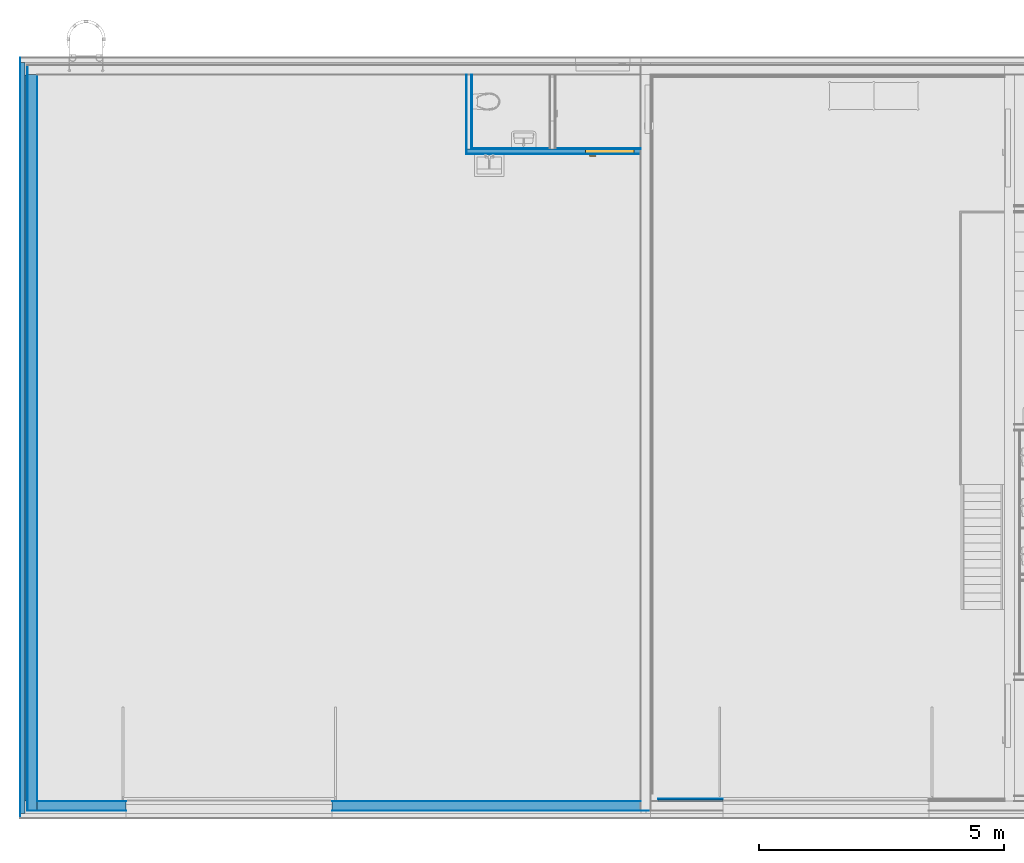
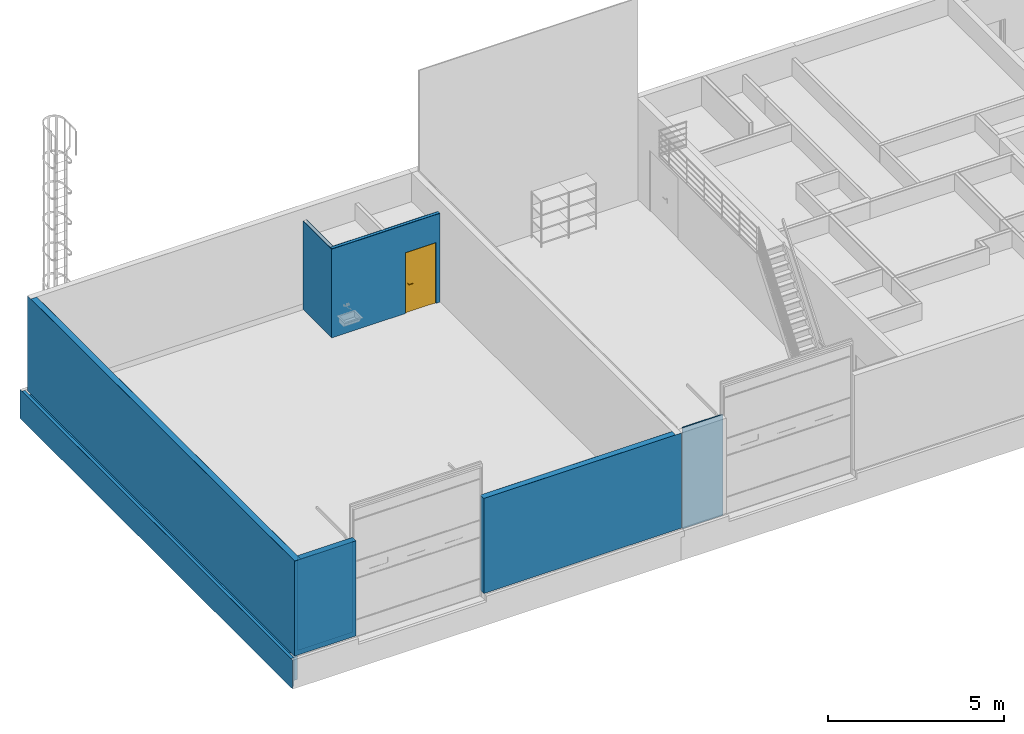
# One storey, part 2 of 67: 20 building element parts, 1 door, 1 opening, 6 elements without a shape of their own.
"""IFC4 building model written with IfcOpenShell, lengths in millimetres."""

from ifc_helpers import new_model, entity, si_unit, converted_unit, direction, frame, origin, place, context, subcontext, project, spatial, indexed_curve, outline, extrude, polygons, source, transform, mapped, material, constituent, constituent_set, type_object, type_shapes, element, fill, aggregate, save


model = new_model("IFC4")

# Units and contexts
model_context = context("Model", 3, precision=0.01, world=origin(), true_north=direction((0.0, 1.0)))
body_context = subcontext(model_context, "Body", "Model", "MODEL_VIEW")
ifc_project = project(units=[si_unit("LENGTHUNIT", "METRE", prefix="MILLI"), si_unit("AREAUNIT", "SQUARE_METRE"), si_unit("VOLUMEUNIT", "CUBIC_METRE"), converted_unit("PLANEANGLEUNIT", "DEGREE", entity("IfcPlaneAngleMeasure", 0.017453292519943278), si_unit("PLANEANGLEUNIT", "RADIAN"), dimensions=[0, 0, 0, 0, 0, 0, 0])], contexts=[model_context])

# Site, building, storey
site_placement = place(None, origin())
site = spatial("IfcSite", under=ifc_project, at=site_placement, Name="Tomtens navn", CompositionType="ELEMENT")
building_placement = place(site_placement, origin())
building = spatial("IfcBuilding", under=site, at=building_placement, Name="Byggets navn", CompositionType="ELEMENT")
storey_placement = place(building_placement, origin())
storey = spatial("IfcBuildingStorey", under=building, at=storey_placement, Name="Level 01", CompositionType="ELEMENT", Elevation=2.1993652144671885e-25)

# Door
ifc_material_1 = material(Name="Rustfritt Stål", Category="Metal")
ifc_constituent_1 = constituent(ifc_material_1, Name="Rustfritt Stål", Category="Metal", fraction=0.0018055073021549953)
ifc_material_2 = material(Name="Hvit", Category="Paint")
ifc_constituent_2 = constituent(ifc_material_2, Name="Hvit", Category="Paint", fraction=0.998194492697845)
ifc_constituent_set_1 = constituent_set(constituents=[ifc_constituent_1, ifc_constituent_2])
ifc_constituent_3 = constituent(ifc_material_1, Name="Rustfritt Stål", Category="Metal", fraction=0.0009035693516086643)
ifc_constituent_4 = constituent(ifc_material_2, Name="Panel", Category="Paint", fraction=0.4995482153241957)
ifc_constituent_5 = constituent(ifc_material_2, Name="Frame/Mullion", Category="Paint", fraction=0.4995482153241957)
ifc_constituent_set_2 = constituent_set(constituents=[ifc_constituent_3, ifc_constituent_4, ifc_constituent_5])
door_type = type_object("IfcDoorType", Name="Enfløyet:ID10 Stålsdør 10x21M", OperationType="SINGLE_SWING_LEFT", PredefinedType="DOOR", material=ifc_constituent_set_2)
shared_shape = source(origin(), body_context, "Body", "SweptSolid", [
    extrude(outline(indexed_curve([(-33.33333333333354, -50.833333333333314), (24.166666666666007, -50.833333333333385), (24.166666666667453, 86.66666666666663), (9.16666666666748, 86.6666666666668), (9.166666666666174, -35.83333333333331), (-33.33333333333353, -35.83333333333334), (-33.33333333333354, -50.833333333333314)], self_intersect=False)), frame((868.666666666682, 119.9410394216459, 980.5000000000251), z_axis=(0.0, 0.0, 1.0), x_axis=(0.0, 1.0, 0.0)), (0.0, 0.0, 1.0), 14.999999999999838),
    extrude(outline(indexed_curve([(-2.8000000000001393, -25.000000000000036), (2.799999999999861, -25.000000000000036), (2.8000000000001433, 25.000000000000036), (-2.799999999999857, 24.999999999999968), (-2.8000000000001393, -25.000000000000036)], self_intersect=False)), frame((912.0, 83.80000000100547, 850.9862950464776), z_axis=(0.0, 0.0, 1.0), x_axis=(0.0, -1.0, 0.0)), (0.0, 0.0, 1.0), 159.01370495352),
    extrude(outline(indexed_curve([(-50.83333333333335, -33.33333333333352), (-35.83333333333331, -33.33333333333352), (-35.83333333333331, 9.16666666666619), (86.6666666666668, 9.1666666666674), (86.66666666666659, 24.1666666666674), (-50.83333333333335, 24.16666666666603), (-50.83333333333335, -33.33333333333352)], self_intersect=False)), frame((868.6666666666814, 2.0589605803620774, 980.5000000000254), z_axis=(0.0, 0.0, 1.0), x_axis=(-1.0, 0.0, 0.0)), (0.0, 0.0, 1.0), 14.999999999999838),
    extrude(outline(indexed_curve([(-24.999999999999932, -2.799999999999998), (25.00000000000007, -2.799999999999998), (25.0, 2.800000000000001), (-24.999999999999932, 2.800000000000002), (-24.999999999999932, -2.799999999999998)], self_intersect=False)), frame((912.0, 38.200000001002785, 850.9862950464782)), (0.0, 0.0, 1.0), 159.01370495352),
    extrude(outline(indexed_curve([(-456.9999999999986, -20.0), (456.9999999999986, -20.0), (456.9999999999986, 20.0), (-456.9999999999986, 20.0), (-456.9999999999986, -20.0)], self_intersect=False)), frame((505.0, 61.00000000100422, 10.0)), (0.0, 0.0, 1.0), 2042.0),
    extrude(outline(indexed_curve([(456.9999999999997, -1035.4999999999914), (494.99999999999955, -1035.4999999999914), (494.99999999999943, 1054.4999999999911), (-494.99999999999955, 1054.4999999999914), (-494.99999999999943, -1035.4999999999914), (-456.99999999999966, -1035.4999999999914), (-456.99999999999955, 1016.4999999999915), (456.99999999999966, 1016.4999999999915), (456.9999999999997, -1035.4999999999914)], self_intersect=False)), frame((505.0, 81.00000000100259, 1035.4999999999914), z_axis=(0.0, -1.0, 0.0), x_axis=(1.0, 0.0, 0.0)), (0.0, 0.0, 1.0), 99.99999999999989),
])
type_shapes(door_type, [shared_shape])
wall_5_placement = place(storey_placement, frame((51012.853528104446, 21300.966456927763, 0.0), z_axis=(0.0, 0.0, 1.0), x_axis=(-1.0, 0.0, 0.0)))
opening_placement = place(wall_5_placement, frame((129.49999999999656, -60.49999999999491, 0.0)))
door_placement = place(opening_placement, frame((0.0, 20.0, 0.0)))
door = element("IfcDoor", 1, at=door_placement, inside=storey, type_object=door_type, material=ifc_constituent_set_1, Name="Enfløyet:ID10 Stålsdør 10x21M", OverallHeight=2110.000000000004, OverallWidth=1009.9999999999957, PredefinedType="DOOR", context=body_context, shape_type="MappedRepresentation", body=[
    mapped(shared_shape, transform((0.0, 0.0, 0.0), scale=1.0)),
])

# Wall, building element parts
wall_type_1 = type_object("IfcWallType", Name="Basic Wall:IV17 - Utforing lekt+fasadeplater", PredefinedType="STANDARD")
wall_1_placement = place(storey_placement, frame((51362.853528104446, 8084.466456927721, 0.0)))
wall_1 = element("IfcWall", 2, at=wall_1_placement, inside=storey, type_object=wall_type_1, Name="Basic Wall:IV17 - Utforing lekt+fasadeplater", PredefinedType="NOTDEFINED")
ifc_material_3 = material(Name="NO_platekledning", Category="Tre")
building_element_part_1_placement = place(wall_1_placement, origin())
building_element_part_1 = element("IfcBuildingElementPart", 3, at=building_element_part_1_placement, material=ifc_material_3, Name="NO_platekledning", context=body_context, shape_type="SweptSolid", body=[
    extrude(outline(indexed_curve([(-4.999999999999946, -659.9999999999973), (4.999999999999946, -659.9999999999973), (4.999999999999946, 659.9999999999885), (-4.999999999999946, 659.9999999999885), (-4.999999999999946, -659.9999999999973)], self_intersect=False)), frame((660.0, 18.0, 0.0), z_axis=(0.0, 0.0, 1.0), x_axis=(0.0, -1.0, 0.0)), (0.0, 0.0, 1.0), 3499.999999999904),
])
ifc_material_4 = material(Name="Stender", Category="Unassigned")
building_element_part_2_placement = place(wall_1_placement, origin())
building_element_part_2 = element("IfcBuildingElementPart", 4, at=building_element_part_2_placement, material=ifc_material_4, Name="Stender", context=body_context, shape_type="SweptSolid", body=[
    extrude(outline(indexed_curve([(-18.000000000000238, -659.9999999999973), (18.000000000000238, -659.9999999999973), (18.000000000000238, 659.9999999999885), (-18.000000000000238, 659.9999999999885), (-18.000000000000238, -659.9999999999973)], self_intersect=False)), frame((660.0, -5.0, 0.0), z_axis=(0.0, 0.0, 1.0), x_axis=(0.0, -1.0, 0.0)), (0.0, 0.0, 1.0), 3499.999999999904),
])
aggregate(wall_1, [building_element_part_1, building_element_part_2])

wall_type_2 = type_object("IfcWallType", Name="Basic Wall:YV02 Sandwichvegg 200", PredefinedType="STANDARD")
wall_2_placement = place(storey_placement, frame((51012.85352810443, 7961.46645692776, 200.0), z_axis=(0.0, 0.0, 1.0), x_axis=(-1.0, 0.0, 0.0)))
wall_2 = element("IfcWall", 5, at=wall_2_placement, inside=storey, type_object=wall_type_2, Name="Basic Wall:YV02 Sandwichvegg 200", PredefinedType="NOTDEFINED")
ifc_material_5 = material(Name="Metall - Malt overflate - Mørk Grå, Matt", Category="Unassigned")
building_element_part_3_placement = place(wall_2_placement, origin())
building_element_part_3 = element("IfcBuildingElementPart", 6, at=building_element_part_3_placement, material=ifc_material_5, Name="Metall - Malt overflate - Mørk Grå, Matt", context=body_context, shape_type="SweptSolid", body=[
    extrude(outline(indexed_curve([(-0.9999999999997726, -1003.999999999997), (0.9999999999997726, -1003.999999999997), (0.9999999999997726, 1003.999999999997), (-0.9999999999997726, 1003.999999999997), (-0.9999999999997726, -1003.999999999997)], self_intersect=False)), frame((11494.0, 99.0, 0.0), z_axis=(0.0, 0.0, 1.0), x_axis=(0.0, 1.0, 0.0)), (0.0, 0.0, 1.0), 3299.999999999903),
])
building_element_part_4_placement = place(wall_2_placement, origin())
building_element_part_4 = element("IfcBuildingElementPart", 7, at=building_element_part_4_placement, material=ifc_material_5, Name="Metall - Malt overflate - Mørk Grå, Matt", context=body_context, shape_type="SweptSolid", body=[
    extrude(outline(indexed_curve([(-0.9999999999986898, -3244.0000000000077), (0.9999999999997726, -3244.0000000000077), (0.9999999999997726, 3244.0000000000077), (-0.9999999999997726, 3244.0000000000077), (-0.9999999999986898, -3244.0000000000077)], self_intersect=False)), frame((3046.0, 99.0, 0.0), z_axis=(0.0, 0.0, 1.0), x_axis=(0.0, 1.0, 0.0)), (0.0, 0.0, 1.0), 3299.999999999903),
])
building_element_part_5_placement = place(wall_2_placement, origin())
building_element_part_5 = element("IfcBuildingElementPart", 8, at=building_element_part_5_placement, material=ifc_material_1, Name="Rustfritt Stål", context=body_context, shape_type="SweptSolid", body=[
    extrude(outline(indexed_curve([(-0.9999999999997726, -905.0000000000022), (0.9999999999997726, -905.0000000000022), (0.9999999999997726, 904.9999999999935), (-0.9999999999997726, 904.9999999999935), (-0.9999999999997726, -905.0000000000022)], self_intersect=False)), frame((11395.0, -99.0, 0.0), z_axis=(0.0, 0.0, 1.0), x_axis=(0.0, 1.0, 0.0)), (0.0, 0.0, 1.0), 3299.999999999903),
])
building_element_part_6_placement = place(wall_2_placement, origin())
building_element_part_6 = element("IfcBuildingElementPart", 9, at=building_element_part_6_placement, material=ifc_material_1, Name="Rustfritt Stål", context=body_context, shape_type="SweptSolid", body=[
    extrude(outline(indexed_curve([(-0.9999999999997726, -3145.000000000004), (1.0000000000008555, -3145.000000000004), (0.9999999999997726, 3145.0000000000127), (-0.9999999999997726, 3145.0000000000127), (-0.9999999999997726, -3145.000000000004)], self_intersect=False)), frame((3145.0, -99.0, 0.0), z_axis=(0.0, 0.0, 1.0), x_axis=(0.0, 1.0, 0.0)), (0.0, 0.0, 1.0), 3299.999999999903),
])
ifc_material_6 = material(Name="NO_Isolasjon - Fast", Category="Isolasjon")
building_element_part_7_placement = place(wall_2_placement, origin())
building_element_part_7 = element("IfcBuildingElementPart", 10, at=building_element_part_7_placement, material=ifc_material_6, Name="NO_Isolasjon - Fast", context=body_context, shape_type="SweptSolid", body=[
    extrude(outline(indexed_curve([(-98.00000000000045, -906.0000000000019), (98.00000000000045, -906.0000000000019), (98.00000000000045, 905.9999999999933), (-98.00000000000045, 905.9999999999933), (-98.00000000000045, -906.0000000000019)], self_intersect=False)), frame((11396.0, 0.0, 0.0), z_axis=(0.0, 0.0, 1.0), x_axis=(0.0, 1.0, 0.0)), (0.0, 0.0, 1.0), 3299.999999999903),
])
building_element_part_8_placement = place(wall_2_placement, origin())
building_element_part_8 = element("IfcBuildingElementPart", 11, at=building_element_part_8_placement, material=ifc_material_6, Name="NO_Isolasjon - Fast", context=body_context, shape_type="SweptSolid", body=[
    extrude(outline(indexed_curve([(-97.99999999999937, -3146.0000000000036), (98.00000000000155, -3146.0000000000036), (98.00000000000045, 3146.0000000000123), (-98.00000000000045, 3146.0000000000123), (-97.99999999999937, -3146.0000000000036)], self_intersect=False)), frame((3144.0, 0.0, 0.0), z_axis=(0.0, 0.0, 1.0), x_axis=(0.0, 1.0, 0.0)), (0.0, 0.0, 1.0), 3299.999999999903),
])
aggregate(wall_2, [building_element_part_3, building_element_part_4, building_element_part_5, building_element_part_6, building_element_part_7, building_element_part_8])

wall_3_placement = place(storey_placement, frame((38612.853528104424, 7861.466456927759, 200.0), z_axis=(0.0, 0.0, 1.0), x_axis=(0.0, 1.0, 0.0)))
wall_3 = element("IfcWall", 12, at=wall_3_placement, inside=storey, type_object=wall_type_2, Name="Basic Wall:YV02 Sandwichvegg 200", PredefinedType="NOTDEFINED")
building_element_part_9_placement = place(wall_3_placement, origin())
building_element_part_9 = element("IfcBuildingElementPart", 13, at=building_element_part_9_placement, material=ifc_material_5, Name="Metall - Malt overflate - Mørk Grå, Matt", context=body_context, shape_type="SweptSolid", body=[
    extrude(outline(indexed_curve([(-7599.000000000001, -1.0000000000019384), (7599.0, -1.0000000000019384), (7599.000000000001, 0.9999999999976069), (-7599.000000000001, 1.0000000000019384), (-7599.000000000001, -1.0000000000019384)], self_intersect=False)), frame((7599.0, 99.0, 0.0), z_axis=(0.0, 0.0, 1.0), x_axis=(-1.0, 0.0, 0.0)), (0.0, 0.0, 1.0), 3299.9999999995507),
])
building_element_part_10_placement = place(wall_3_placement, origin())
building_element_part_10 = element("IfcBuildingElementPart", 14, at=building_element_part_10_placement, material=ifc_material_1, Name="Rustfritt Stål", context=body_context, shape_type="SweptSolid", body=[
    extrude(outline(indexed_curve([(-7401.0, -0.9999999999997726), (7401.0, -0.9999999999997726), (7401.0, 0.9999999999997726), (-7401.0, 0.9999999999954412), (-7401.0, -0.9999999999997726)], self_intersect=False)), frame((7599.0, -99.0, 0.0), z_axis=(0.0, 0.0, 1.0), x_axis=(-1.0, 0.0, 0.0)), (0.0, 0.0, 1.0), 3299.9999999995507),
])
building_element_part_11_placement = place(wall_3_placement, origin())
building_element_part_11 = element("IfcBuildingElementPart", 15, at=building_element_part_11_placement, material=ifc_material_6, Name="NO_Isolasjon - Fast", context=body_context, shape_type="SweptSolid", body=[
    extrude(outline(indexed_curve([(-7500.000000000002, -97.99999999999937), (7500.000000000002, -97.99999999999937), (7500.000000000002, 97.99999999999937), (-7500.000000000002, 97.99999999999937), (-7500.000000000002, -97.99999999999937)], self_intersect=False)), frame((7502.0, 0.0, 0.0), z_axis=(0.0, 0.0, 1.0), x_axis=(-1.0, 0.0, 0.0)), (0.0, 0.0, 1.0), 3299.9999999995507),
])
aggregate(wall_3, [building_element_part_9, building_element_part_10, building_element_part_11])

wall_type_3 = type_object("IfcWallType", Name="Basic Wall:RIB YV-Betong_250mm+100iso", PredefinedType="STANDARD")
wall_4_placement = place(storey_placement, frame((38536.85352810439, 22861.466456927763, -800.0), z_axis=(0.0, 0.0, 1.0), x_axis=(0.0, -1.0, 0.0)))
wall_4 = element("IfcWall", 16, at=wall_4_placement, inside=storey, type_object=wall_type_3, Name="Basic Wall:RIB YV-Betong_250mm+100iso", PredefinedType="NOTDEFINED")
ifc_material_7 = material(Name="NO_Maling - mørk grå", Category="Overflatebehandling")
building_element_part_12_placement = place(wall_4_placement, origin())
building_element_part_12 = element("IfcBuildingElementPart", 17, at=building_element_part_12_placement, material=ifc_material_7, Name="NO_Maling - mørk grå", context=body_context, shape_type="SweptSolid", body=[
    extrude(outline(indexed_curve([(-7749.999999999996, -1.0000000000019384), (7750.0, -1.0000000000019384), (7749.999999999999, 0.9999999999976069), (-7749.999999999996, 0.9999999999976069), (-7749.999999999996, -1.0000000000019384)], self_intersect=False)), frame((7400.0, -175.0, 0.0)), (0.0, 0.0, 1.0), 1000.0000000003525),
])
building_element_part_13_placement = place(wall_4_placement, origin())
building_element_part_13 = element("IfcBuildingElementPart", 18, at=building_element_part_13_placement, material=ifc_material_6, Name="NO_Isolasjon - Fast", context=body_context, shape_type="SweptSolid", body=[
    extrude(outline(indexed_curve([(-7650.0, -49.99999999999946), (7650.0, -49.99999999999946), (7649.999999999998, 49.99999999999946), (-7650.0, 49.99999999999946), (-7650.0, -49.99999999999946)], self_intersect=False)), frame((7400.0, -124.0, 0.0)), (0.0, 0.0, 1.0), 1000.0000000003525),
])
ifc_material_8 = material(Name="231_Vegg 250mm_Betong", Category="NOR ^ Betong")
building_element_part_14_placement = place(wall_4_placement, origin())
building_element_part_14 = element("IfcBuildingElementPart", 19, at=building_element_part_14_placement, material=ifc_material_8, Name="231_Vegg 250mm_Betong", context=body_context, shape_type="SweptSolid", body=[
    extrude(outline(indexed_curve([(-7399.999999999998, -124.99999999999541), (7399.999999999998, -124.99999999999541), (7399.999999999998, 125.00000000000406), (-7399.999999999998, 125.00000000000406), (-7399.999999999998, -124.99999999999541)], self_intersect=False)), frame((7400.0, 51.0, 0.0)), (0.0, 0.0, 1.0), 1000.0000000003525),
])
aggregate(wall_4, [building_element_part_12, building_element_part_13, building_element_part_14])

# Wall, opening
wall_type_4 = type_object("IfcWallType", Name="Basic Wall:IV02 Gips Stender Gips-120mm", PredefinedType="STANDARD")
wall_5 = element("IfcWall", 20, at=wall_5_placement, inside=storey, type_object=wall_type_4, Name="Basic Wall:IV02 Gips Stender Gips-120mm", PredefinedType="NOTDEFINED")
opening = element("IfcOpeningElement", 21, at=opening_placement, cuts=wall_5, Name="Enfløyet:ID10 Stålsdør 10x21M:1", PredefinedType="OPENING", context=body_context, shape_type="SweptSolid", body=[
    extrude(outline(indexed_curve([(0.0, 3.5193181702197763e-12), (2110.000000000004, 3.5193181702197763e-12), (2110.000000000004, 1009.9999999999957), (0.0, 1009.9999999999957), (0.0, 3.5193181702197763e-12)], self_intersect=False)), frame((0.0, 0.0, 0.0), z_axis=(0.0, 1.0, 0.0), x_axis=(0.0, 0.0, 1.0)), (0.0, 0.0, 1.0), 120.99999999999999),
])

fill(opening, door)

# Building element part
building_element_part_15_placement = place(wall_5_placement, frame((3547.5000000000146, 47.49999999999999, 0.0)))
building_element_part_15 = element("IfcBuildingElementPart", 22, at=building_element_part_15_placement, material=ifc_material_4, Name="Stender", context=body_context, shape_type="Tessellation", body=[
    polygons([(-2408.000000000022, -94.99999999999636, 7.331217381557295e-26), (-7.275957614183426e-12, -94.99999999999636, 7.331217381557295e-26), (-7.275957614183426e-12, -94.99999999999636, 3079.9999999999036), (-3549.5000000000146, -94.99999999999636, 3079.9999999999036), (-3549.5000000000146, -94.99999999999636, 7.331217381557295e-26), (-3418.000000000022, -94.99999999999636, 7.331217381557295e-26), (-3418.000000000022, -94.99999999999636, 2110.000000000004), (-2408.000000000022, -94.99999999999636, 2110.000000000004), (-3549.5000000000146, 0.0, 7.331217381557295e-26), (-3418.000000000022, 0.0, 7.331217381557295e-26), (-7.275957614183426e-12, 0.0, 3079.9999999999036), (-3549.5000000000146, 0.0, 3079.9999999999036), (-3418.000000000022, 0.0, 2110.000000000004), (-2408.000000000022, 0.0, 2110.000000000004), (-2408.000000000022, 0.0, 7.331217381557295e-26), (-7.275957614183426e-12, 0.0, 7.331217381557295e-26)], [[[1, 2, 3, 4, 5, 6, 7, 8]], [[5, 9, 10, 6]], [[3, 11, 12, 4]], [[6, 10, 13, 7]], [[7, 13, 14, 8]], [[15, 1, 8, 14]], [[16, 2, 1, 15]], [[16, 15, 14, 13, 10, 9, 12, 11]], [[9, 5, 4, 12]], [[2, 16, 11, 3]]], closed=True),
])

ifc_material_9 = material(Name="Gipsplater", Category="NOR ^ Gips")
building_element_part_16_placement = place(wall_5_placement, origin())
building_element_part_16 = element("IfcBuildingElementPart", 23, at=building_element_part_16_placement, material=ifc_material_9, Name="Gipsplater", context=body_context, shape_type="SweptSolid", body=[
    extrude(outline(indexed_curve([(-6.500000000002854, -802.4999999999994), (6.499999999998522, -802.4999999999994), (6.499999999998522, 802.5000000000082), (-6.500000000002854, 802.5000000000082), (-6.500000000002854, -802.4999999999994)], self_intersect=False)), frame((2650.0, -54.0, 0.0), z_axis=(0.0, 0.0, 1.0), x_axis=(0.0, 1.0, 0.0)), (0.0, 0.0, 1.0), 3079.9999999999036),
])

building_element_part_17_placement = place(wall_5_placement, frame((1752.4999999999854, -47.49999999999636, 0.0)))
building_element_part_17 = element("IfcBuildingElementPart", 24, at=building_element_part_17_placement, material=ifc_material_9, Name="Gipsplater", context=body_context, shape_type="Tessellation", body=[
    polygons([(-1622.9999999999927, -13.0, 2.1993652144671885e-25), (-1752.4999999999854, -13.0, 2.1993652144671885e-25), (-1752.4999999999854, 0.0, 7.331217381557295e-26), (-1622.9999999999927, 0.0, 7.331217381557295e-26), (-1622.9999999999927, 0.0, 2110.000000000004), (-1622.9999999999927, -13.0, 2110.000000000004), (-612.9999999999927, 0.0, 2110.000000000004), (-612.9999999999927, -13.0, 2110.000000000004), (-612.9999999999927, 0.0, 7.331217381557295e-26), (-612.9999999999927, -13.0, 2.1993652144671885e-25), (-1752.4999999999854, -13.0, 3079.9999999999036), (-1752.4999999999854, 0.0, 3079.9999999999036), (1.4551915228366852e-11, 0.0, 7.331217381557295e-26), (1.4551915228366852e-11, -13.0, 2.1993652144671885e-25), (-12.999999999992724, -13.0, 2.1993652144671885e-25), (1.4551915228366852e-11, 0.0, 3079.9999999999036), (1.4551915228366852e-11, -13.0, 3079.9999999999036), (-12.999999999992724, -13.0, 3079.9999999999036)], [[[1, 2, 3, 4]], [[1, 4, 5, 6]], [[6, 5, 7, 8]], [[8, 7, 9, 10]], [[3, 2, 11, 12]], [[10, 9, 13, 14, 15]], [[4, 3, 12, 16, 13, 9, 7, 5]], [[2, 1, 6, 8, 10, 15, 14, 17, 18, 11]], [[16, 17, 14, 13]], [[12, 11, 18, 17, 16]]], closed=True),
])

building_element_part_18_placement = place(wall_5_placement, frame((3560.5000000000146, 60.49999999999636, 0.0)))
building_element_part_18 = element("IfcBuildingElementPart", 25, at=building_element_part_18_placement, material=ifc_material_9, Name="Gipsplater", context=body_context, shape_type="Tessellation", body=[
    polygons([(-2421.000000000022, -12.999999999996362, 7.331217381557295e-26), (0.0, -12.999999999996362, 7.331217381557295e-26), (-1.4551915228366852e-11, -12.999999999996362, 3079.9999999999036), (-3560.5000000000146, -12.999999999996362, 3079.9999999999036), (-3560.5000000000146, -12.999999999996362, 7.331217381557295e-26), (-3431.000000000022, -12.999999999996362, 7.331217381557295e-26), (-3431.000000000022, -12.999999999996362, 2110.000000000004), (-2421.000000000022, -12.999999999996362, 2110.000000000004), (-3560.5000000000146, 3.637978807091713e-12, 3079.9999999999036), (-1.4551915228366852e-11, 3.637978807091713e-12, 3079.9999999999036), (-1.4551915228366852e-11, 3.637978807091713e-12, 2.1993652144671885e-25), (-2421.000000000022, 3.637978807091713e-12, 2.1993652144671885e-25), (-2421.000000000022, 3.637978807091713e-12, 2110.000000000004), (-3431.000000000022, 3.637978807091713e-12, 2110.000000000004), (-3431.000000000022, 3.637978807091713e-12, 2.1993652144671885e-25), (-3560.5000000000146, 3.637978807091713e-12, 2.1993652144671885e-25)], [[[1, 2, 3, 4, 5, 6, 7, 8]], [[9, 10, 11, 12, 13, 14, 15, 16]], [[16, 15, 6, 5]], [[10, 9, 4, 3]], [[11, 10, 3, 2]], [[15, 14, 7, 6]], [[14, 13, 8, 7]], [[13, 12, 1, 8]], [[9, 16, 5, 4]], [[12, 11, 2, 1]]], closed=True),
])

aggregate(wall_5, [building_element_part_15, building_element_part_16, building_element_part_17, building_element_part_18])

# Wall, building element parts
wall_6_placement = place(storey_placement, frame((47512.853528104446, 21361.46645692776, 0.0), z_axis=(0.0, 0.0, 1.0), x_axis=(0.0, 1.0, 0.0)))
wall_6 = element("IfcWall", 26, at=wall_6_placement, inside=storey, type_object=wall_type_4, Name="Basic Wall:IV02 Gips Stender Gips-120mm", PredefinedType="NOTDEFINED")
building_element_part_19_placement = place(wall_6_placement, origin())
building_element_part_19 = element("IfcBuildingElementPart", 27, at=building_element_part_19_placement, material=ifc_material_9, Name="Gipsplater", context=body_context, shape_type="SweptSolid", body=[
    extrude(outline(indexed_curve([(-750.0000000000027, -6.499999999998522), (749.9999999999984, -6.499999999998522), (749.9999999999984, 6.499999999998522), (-750.0000000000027, 6.499999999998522), (-750.0000000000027, -6.499999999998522)], self_intersect=False)), frame((750.0, -54.0, 0.0), z_axis=(0.0, 0.0, 1.0), x_axis=(-1.0, 0.0, 0.0)), (0.0, 0.0, 1.0), 3079.9999999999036),
])
building_element_part_20_placement = place(wall_6_placement, origin())
building_element_part_20 = element("IfcBuildingElementPart", 28, at=building_element_part_20_placement, material=ifc_material_9, Name="Gipsplater", context=body_context, shape_type="SweptSolid", body=[
    extrude(outline(indexed_curve([(-803.9999999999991, -6.499999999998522), (804.0000000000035, -6.499999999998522), (804.0000000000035, 6.500000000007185), (-803.9999999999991, 6.500000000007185), (-803.9999999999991, -6.499999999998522)], self_intersect=False)), frame((696.0, 54.0, 0.0), z_axis=(0.0, 0.0, 1.0), x_axis=(-1.0, 0.0, 0.0)), (0.0, 0.0, 1.0), 3079.9999999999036),
])
aggregate(wall_6, [building_element_part_19, building_element_part_20])

save(model, "model.ifc")
